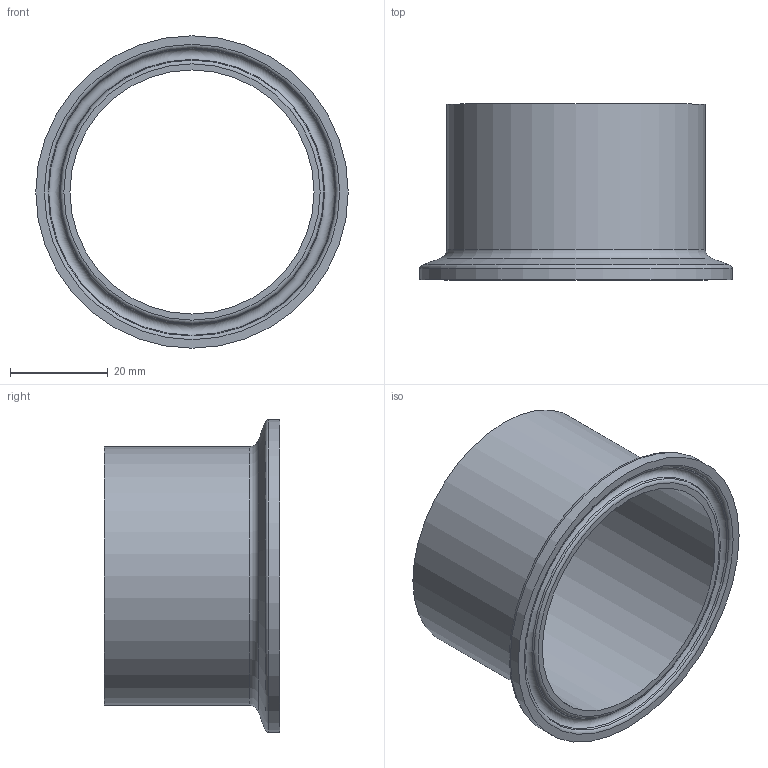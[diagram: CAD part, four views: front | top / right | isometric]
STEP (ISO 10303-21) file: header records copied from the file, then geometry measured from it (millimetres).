
FILE_DESCRIPTION(('Ferrule_53x1,5_L36_FL64_V02'),'2;1');
FILE_NAME('Ferrule_53x1,5_L36_FL64_V02.stp','2013-11-03T13:18:11',('DOCKWEILER AG'),('DOCKWEILER AG'),'Autodesk Inventor 2012','Autodesk Inventor 2012','');
FILE_SCHEMA(('CONFIG_CONTROL_DESIGN'));
Length unit declared in the file: millimetre
Products named in the file (1): N0003_003_001
Bounding box: 64 x 36 x 64 mm (x, y, z)
Volume: 12024.2 mm3; surface area: 14165.2 mm2
Topology: 1 solids, 1 shells, 14 faces, 25 edges, 14 vertices
Faces by surface type: torus 5, plane 3, cylinder 3, cone 3
Full cylindrical faces by diameter (mm): 50 x1, 53 x1, 64 x1
Entity records: 314 total; most frequent: DIRECTION 58, CARTESIAN_POINT 43, AXIS2_PLACEMENT_3D 29, ORIENTED_EDGE 28, EDGE_LOOP 28, VERTEX_POINT 14, CIRCLE 14, EDGE_CURVE 14
